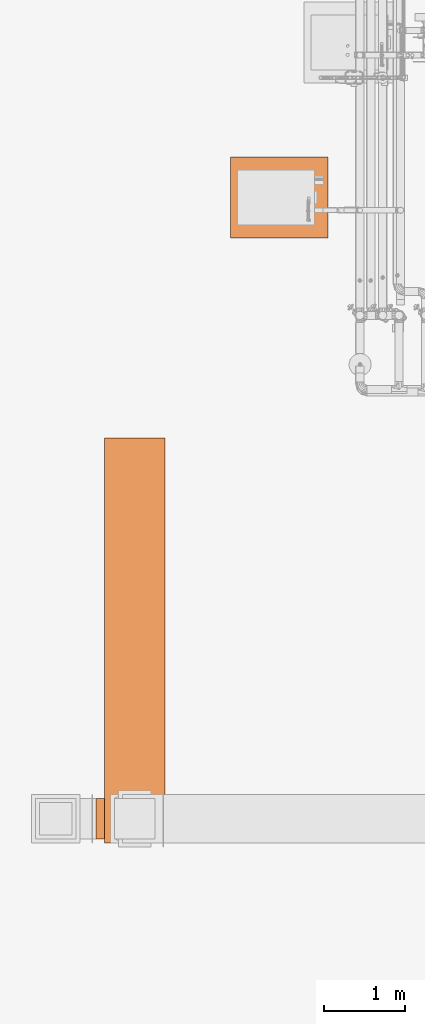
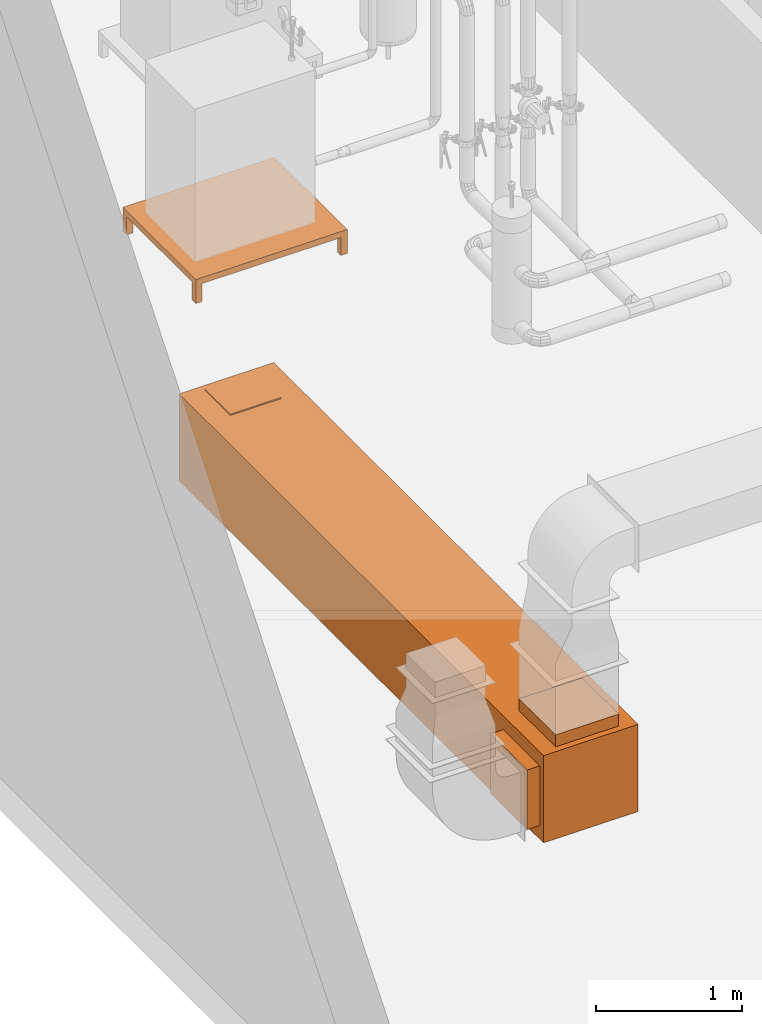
# One storey, part 39 of 43: 2 proxies.
"""IFC2X3 building model written with IfcOpenShell, lengths in millimetres."""

from ifc_helpers import new_model, entity, si_unit, converted_unit, derived_unit, direction, frame, frame_2d, origin, origin_2d_with_axis, place, context, subcontext, project, spatial, rectangle, extrude, faceted_brep, source, transform, mapped, material, material_list, type_object, type_shapes, element, save


model = new_model("IFC2X3")

# Units and contexts
model_context = context("Model", 3, precision=0.01, world=origin(), true_north=direction((6.123031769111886e-17, 1.0)))
body_context = subcontext(model_context, "Body", "Model", "MODEL_VIEW")
ifc_project = project(units=[si_unit("LENGTHUNIT", "METRE", prefix="MILLI"), si_unit("AREAUNIT", "SQUARE_METRE"), si_unit("VOLUMEUNIT", "CUBIC_METRE"), converted_unit("PLANEANGLEUNIT", "DEGREE", entity("IfcRatioMeasure", 0.017453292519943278), si_unit("PLANEANGLEUNIT", "RADIAN"), dimensions=[0, 0, 0, 0, 0, 0, 0]), si_unit("MASSUNIT", "GRAM", prefix="KILO"), derived_unit("MASSDENSITYUNIT", [(si_unit("MASSUNIT", "GRAM", prefix="KILO"), 1), (si_unit("LENGTHUNIT", "METRE"), -3)]), derived_unit("MOMENTOFINERTIAUNIT", [(si_unit("LENGTHUNIT", "METRE"), 4)]), si_unit("TIMEUNIT", "SECOND"), si_unit("FREQUENCYUNIT", "HERTZ"), si_unit("THERMODYNAMICTEMPERATUREUNIT", "DEGREE_CELSIUS"), derived_unit("THERMALTRANSMITTANCEUNIT", [(si_unit("MASSUNIT", "GRAM", prefix="KILO"), 1), (si_unit("THERMODYNAMICTEMPERATUREUNIT", "KELVIN"), -1), (si_unit("TIMEUNIT", "SECOND"), -3)]), derived_unit("VOLUMETRICFLOWRATEUNIT", [(si_unit("LENGTHUNIT", "METRE"), 3), (si_unit("TIMEUNIT", "SECOND"), -1)]), derived_unit("MASSFLOWRATEUNIT", [(si_unit("MASSUNIT", "GRAM", prefix="KILO"), 1), (si_unit("TIMEUNIT", "SECOND"), -1)]), derived_unit("ROTATIONALFREQUENCYUNIT", [(si_unit("TIMEUNIT", "SECOND"), -1)]), si_unit("ELECTRICCURRENTUNIT", "AMPERE"), si_unit("ELECTRICVOLTAGEUNIT", "VOLT"), si_unit("POWERUNIT", "WATT"), si_unit("FORCEUNIT", "NEWTON", prefix="KILO"), si_unit("ILLUMINANCEUNIT", "LUX"), si_unit("LUMINOUSFLUXUNIT", "LUMEN"), si_unit("LUMINOUSINTENSITYUNIT", "CANDELA"), derived_unit("USERDEFINED", [(si_unit("MASSUNIT", "GRAM", prefix="KILO"), -1), (si_unit("LENGTHUNIT", "METRE"), -2), (si_unit("TIMEUNIT", "SECOND"), 3), (si_unit("LUMINOUSFLUXUNIT", "LUMEN"), 1)]), derived_unit("SOUNDPOWERUNIT", [(si_unit("MASSUNIT", "GRAM", prefix="KILO"), 1), (si_unit("LENGTHUNIT", "METRE"), 2), (si_unit("TIMEUNIT", "SECOND"), -3)]), derived_unit("SOUNDPRESSUREUNIT", [(si_unit("MASSUNIT", "GRAM", prefix="KILO"), 1), (si_unit("LENGTHUNIT", "METRE"), -1), (si_unit("TIMEUNIT", "SECOND"), -2)]), derived_unit("LINEARVELOCITYUNIT", [(si_unit("LENGTHUNIT", "METRE"), 1), (si_unit("TIMEUNIT", "SECOND"), -1)]), si_unit("PRESSUREUNIT", "PASCAL"), derived_unit("USERDEFINED", [(si_unit("LENGTHUNIT", "METRE"), -2), (si_unit("MASSUNIT", "GRAM", prefix="KILO"), 1), (si_unit("TIMEUNIT", "SECOND"), -2)]), derived_unit("LINEARFORCEUNIT", [(si_unit("MASSUNIT", "GRAM", prefix="KILO"), 1), (si_unit("LENGTHUNIT", "METRE"), 1), (si_unit("TIMEUNIT", "SECOND"), -2), (si_unit("LENGTHUNIT", "METRE"), -1)]), derived_unit("PLANARFORCEUNIT", [(si_unit("MASSUNIT", "GRAM", prefix="KILO"), 1), (si_unit("LENGTHUNIT", "METRE"), 1), (si_unit("TIMEUNIT", "SECOND"), -2), (si_unit("LENGTHUNIT", "METRE"), -2)])], contexts=[model_context])

# Site, building, storey
site_placement = place(None, origin())
site = spatial("IfcSite", under=ifc_project, at=site_placement, Name="Default", CompositionType="ELEMENT")
building_placement = place(site_placement, origin())
building = spatial("IfcBuilding", under=site, at=building_placement, CompositionType="ELEMENT")
storey_placement = place(building_placement, frame((0.0, 0.0, 270.0)))
storey = spatial("IfcBuildingStorey", under=building, at=storey_placement, Name="Niveau 0", CompositionType="ELEMENT", Elevation=270.0)

# Proxies
ifc_material_1 = material(Name="<Unnamed>")
ifc_material_list_1 = material_list([ifc_material_1, ifc_material_1, ifc_material_1, ifc_material_1])
ifc_material_list_2 = material_list([ifc_material_1, ifc_material_1, ifc_material_1, ifc_material_1])
building_element_proxy_type_1 = type_object("IfcBuildingElementProxyType", Name="CTA YORK:CTA YORK", PredefinedType="NOTDEFINED", material=ifc_material_list_2)
shared_shape_1 = source(origin(), body_context, "Body", "SweptSolid", [
    extrude(rectangle(XDim=100.0, YDim=500.00000000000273, at=frame_2d((0.0, -2.7000623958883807e-13), x_axis=(1.0, 0.0))), frame((2200.0, -425.0, 115.0), z_axis=(0.0, 0.0, 1.0), x_axis=(0.0, -1.0, 0.0)), (0.0, 0.0, 1.0), 500.0000000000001),
    extrude(rectangle(XDim=499.9999999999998, YDim=500.0000000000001, at=frame_2d((-1.4210854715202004e-13, -1.4210854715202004e-14), x_axis=(1.0, 0.0))), frame((2200.0, 0.0, 730.0), z_axis=(0.0, 0.0, 1.0), x_axis=(-1.0, 0.0, 0.0)), (0.0, 0.0, 1.0), 100.0),
    extrude(rectangle(XDim=350.0, YDim=400.0, at=origin_2d_with_axis()), frame((-2275.0, 0.0, 730.0), z_axis=(0.0, 0.0, 1.0), x_axis=(-1.0, 0.0, 0.0)), (0.0, 0.0, 1.0), 10.000000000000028),
    extrude(rectangle(XDim=5000.0, YDim=750.0, at=frame_2d((0.0, -8.526512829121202e-14), x_axis=(1.0, 0.0))), frame((0.0, 0.0, 0.0), z_axis=(0.0, 0.0, 1.0), x_axis=(-1.0, 0.0, 0.0)), (0.0, 0.0, 1.0), 730.0),
])
type_shapes(building_element_proxy_type_1, [shared_shape_1])
proxy_1_placement = place(storey_placement, frame((-5285.742523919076, -16848.55253287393, 560.0), z_axis=(0.0, 0.0, 1.0), x_axis=(0.0, -1.0, 0.0)))
element("IfcBuildingElementProxy", 1, at=proxy_1_placement, inside=storey, type_object=building_element_proxy_type_1, material=ifc_material_list_1, Name="CTA YORK:CTA YORK", ObjectType="CTA YORK:CTA YORK", context=body_context, shape_type="MappedRepresentation", body=[
    mapped(shared_shape_1, transform((0.0, 0.0, 0.0), scale=1.0)),
])
ifc_material_2 = material(Name="Acier noir")
ifc_material_3 = material(Name="Acier rouge")
ifc_material_list_3 = material_list([ifc_material_2, ifc_material_3])
ifc_material_list_4 = material_list([ifc_material_2, ifc_material_3])
building_element_proxy_type_2 = type_object("IfcBuildingElementProxyType", Name="Socle chaudière 1000x1200x200:Socle chaudière 1000x1200x200", PredefinedType="NOTDEFINED", material=ifc_material_list_4)
shared_shape_2 = source(origin(), body_context, "Body", "Brep", [
    faceted_brep([(500.0, 600.0, 200.0), (-500.0, 600.0, 200.0), (-500.0, -600.0, 200.0), (500.0, -600.0, 200.0), (500.0, 600.0, 195.0), (500.0, -600.0, 195.0), (-500.0, -600.0, 195.0), (-500.0, 600.0, 195.0)], [[[0, 1, 2, 3]], [[4, 5, 6, 7]], [[1, 0, 4, 7]], [[2, 1, 7, 6]], [[3, 2, 6, 5]], [[0, 3, 5, 4]]]),
    faceted_brep([(500.0, 600.0, 195.0), (-500.0, 600.0, 195.0), (-500.0, -600.0, 195.0), (500.0, -600.0, 195.0), (-500.0, 600.0, 0.0), (-450.0, 600.0, 0.0), (-450.0, 550.0, 0.0), (-500.0, 550.0, 0.0), (500.0, 600.0, 0.0), (450.0, 600.0, 0.0), (450.0, 600.0, 150.0), (-450.0, 600.0, 150.0), (-500.0, 550.0, 150.0), (-500.0, -550.0, 150.0), (-500.0, -550.0, 0.0), (-500.0, -600.0, 0.0), (-450.0, -600.0, 0.0), (-450.0, -600.0, 150.0), (450.0, -600.0, 150.0), (450.0, -600.0, 0.0), (500.0, -600.0, 0.0), (500.0, -550.0, 0.0), (500.0, -550.0, 150.0), (500.0, 550.0, 150.0), (500.0, 550.0, 0.0), (450.0, 550.0, 150.0), (450.0, -550.0, 150.0), (-450.0, -550.0, 150.0), (-450.0, 550.0, 150.0), (450.0, -550.0, 0.0), (450.0, 550.0, 0.0), (-450.0, -550.0, 0.0)], [[[0, 1, 2, 3]], [[4, 5, 6, 7]], [[1, 0, 8, 9, 10, 11, 5, 4]], [[2, 1, 4, 7, 12, 13, 14, 15]], [[3, 2, 15, 16, 17, 18, 19, 20]], [[0, 3, 20, 21, 22, 23, 24, 8]], [[11, 10, 25, 23, 22, 26, 18, 17, 27, 13, 12, 28]], [[19, 18, 26, 29]], [[5, 11, 28, 6]], [[23, 25, 30, 24]], [[13, 27, 31, 14]], [[26, 22, 21, 29]], [[28, 12, 7, 6]], [[17, 16, 31, 27]], [[10, 9, 30, 25]], [[16, 15, 14, 31]], [[9, 8, 24, 30]], [[20, 19, 29, 21]]]),
])
type_shapes(building_element_proxy_type_2, [shared_shape_2])
proxy_2_placement = place(storey_placement, frame((-3500.0, -11375.0, 0.0), z_axis=(0.0, 0.0, 1.0), x_axis=(0.0, -1.0, 0.0)))
element("IfcBuildingElementProxy", 2, at=proxy_2_placement, inside=storey, type_object=building_element_proxy_type_2, material=ifc_material_list_3, Name="Socle chaudière 1000x1200x200:Socle chaudière 1000x1200x200", ObjectType="Socle chaudière 1000x1200x200:Socle chaudière 1000x1200x200", context=body_context, shape_type="MappedRepresentation", body=[
    mapped(shared_shape_2, transform((0.0, 0.0, 0.0), scale=1.0)),
])

save(model, "model.ifc")
